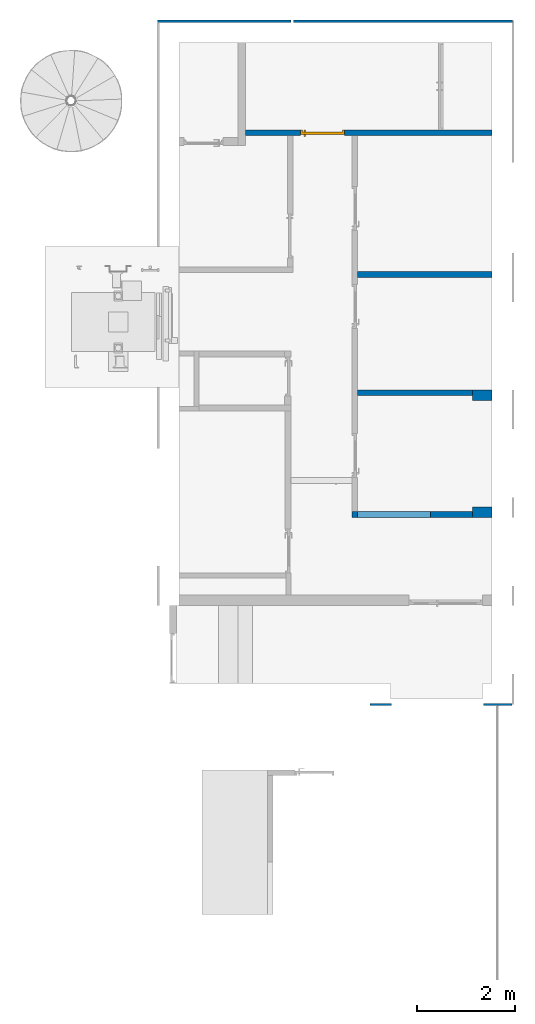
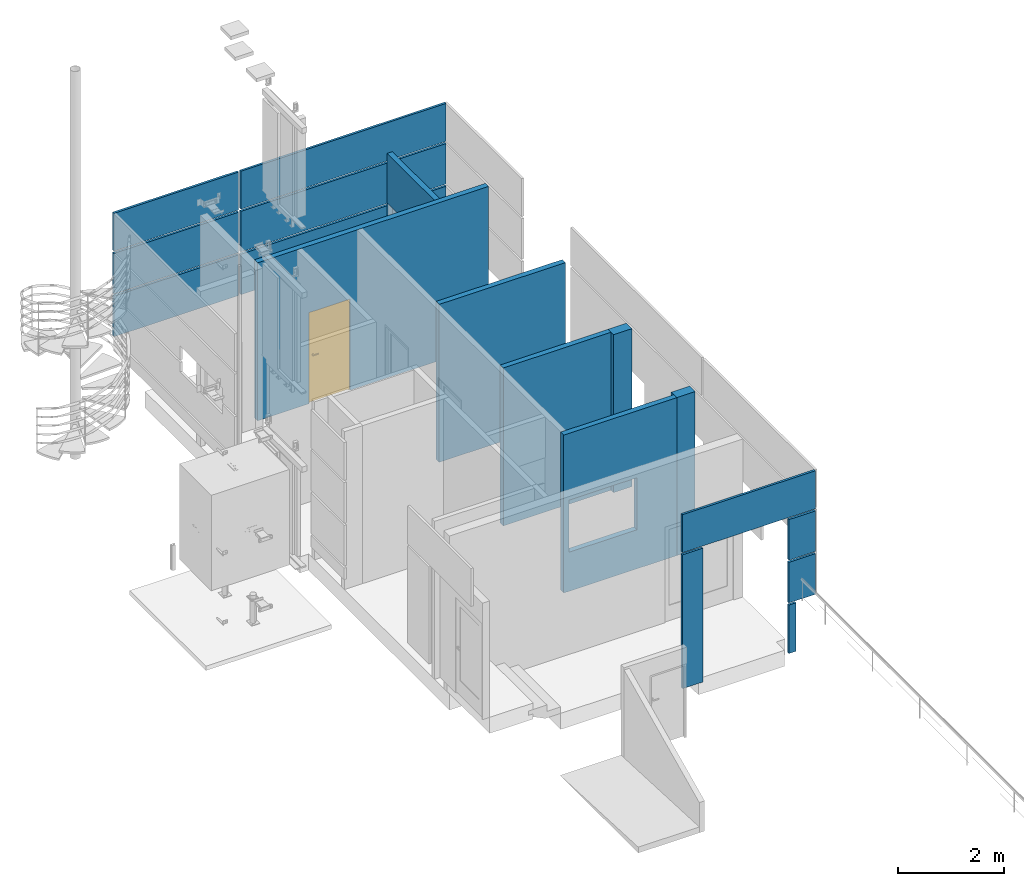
# One storey, part 3 of 15: 9 walls, 1 door, 5 openings.
"""IFC2X3 building model written with IfcOpenShell, lengths in millimetres."""

from ifc_helpers import new_model, entity, si_unit, converted_unit, derived_unit, direction, frame, frame_2d, origin, origin_2d_with_axis, place, context, subcontext, project, spatial, rectangle, extrude, faceted_brep, source, transform, mapped, material, material_list, layer, layer_set, layer_usage, type_object, type_shapes, element, fill, save


model = new_model("IFC2X3")

# Units and contexts
model_context = context("Model", 3, precision=0.01, world=origin(), true_north=direction((6.12303176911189e-17, 1.0)))
body_context = subcontext(model_context, "Body", "Model", "MODEL_VIEW")
ifc_project = project(units=[si_unit("LENGTHUNIT", "METRE", prefix="MILLI"), si_unit("AREAUNIT", "SQUARE_METRE"), si_unit("VOLUMEUNIT", "CUBIC_METRE"), converted_unit("PLANEANGLEUNIT", "DEGREE", entity("IfcRatioMeasure", 0.0174532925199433), si_unit("PLANEANGLEUNIT", "RADIAN"), dimensions=[0, 0, 0, 0, 0, 0, 0]), si_unit("MASSUNIT", "GRAM", prefix="KILO"), derived_unit("MASSDENSITYUNIT", [(si_unit("MASSUNIT", "GRAM", prefix="KILO"), 1), (si_unit("LENGTHUNIT", "METRE"), -3)]), si_unit("TIMEUNIT", "SECOND"), si_unit("FREQUENCYUNIT", "HERTZ"), si_unit("THERMODYNAMICTEMPERATUREUNIT", "DEGREE_CELSIUS"), derived_unit("THERMALTRANSMITTANCEUNIT", [(si_unit("MASSUNIT", "GRAM", prefix="KILO"), 1), (si_unit("THERMODYNAMICTEMPERATUREUNIT", "KELVIN"), -1), (si_unit("TIMEUNIT", "SECOND"), -3)]), derived_unit("VOLUMETRICFLOWRATEUNIT", [(si_unit("LENGTHUNIT", "METRE"), 3), (si_unit("TIMEUNIT", "SECOND"), -1)]), si_unit("ELECTRICCURRENTUNIT", "AMPERE"), si_unit("ELECTRICVOLTAGEUNIT", "VOLT"), si_unit("POWERUNIT", "WATT"), si_unit("FORCEUNIT", "NEWTON", prefix="KILO"), si_unit("ILLUMINANCEUNIT", "LUX"), si_unit("LUMINOUSFLUXUNIT", "LUMEN"), si_unit("LUMINOUSINTENSITYUNIT", "CANDELA"), derived_unit("USERDEFINED", [(si_unit("MASSUNIT", "GRAM", prefix="KILO"), -1), (si_unit("LENGTHUNIT", "METRE"), -2), (si_unit("TIMEUNIT", "SECOND"), 3), (si_unit("LUMINOUSFLUXUNIT", "LUMEN"), 1)]), derived_unit("LINEARVELOCITYUNIT", [(si_unit("LENGTHUNIT", "METRE"), 1), (si_unit("TIMEUNIT", "SECOND"), -1)]), si_unit("PRESSUREUNIT", "PASCAL"), derived_unit("USERDEFINED", [(si_unit("LENGTHUNIT", "METRE"), -2), (si_unit("MASSUNIT", "GRAM", prefix="KILO"), 1), (si_unit("TIMEUNIT", "SECOND"), -2)])], contexts=[model_context])

# Site, building, storey
site_placement = place(None, frame((-151.875543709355, 2715.0, 0.0)))
site = spatial("IfcSite", under=ifc_project, at=site_placement, Name="Surface", CompositionType="ELEMENT")
building_placement = place(site_placement, origin())
building = spatial("IfcBuilding", under=site, at=building_placement, CompositionType="ELEMENT")
storey_placement = place(building_placement, frame((0.0, 0.0, -135.0)))
storey = spatial("IfcBuildingStorey", under=building, at=storey_placement, Name="uus 1 korrus", CompositionType="ELEMENT", Elevation=-134.99999999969)

# Wall, openings
ifc_material_1 = material(Name="__Kips GN13_tava")
ifc_layer_1 = layer(ifc_material_1, 12.5)
ifc_layer_2 = layer(ifc_material_1, 12.5)
ifc_material_2 = material(Name="__Soojustus EPS")
ifc_layer_3 = layer(ifc_material_2, 66.0)
ifc_layer_4 = layer(ifc_material_1, 12.5)
ifc_layer_5 = layer(ifc_material_1, 12.5)
ifc_layer_set_1 = layer_set([ifc_layer_1, ifc_layer_2, ifc_layer_3, ifc_layer_4, ifc_layer_5], Name="Basic Wall:SS-3_Kipssein tava ruumide vahel")
ifc_layer_usage_1 = layer_usage(ifc_layer_set_1, "AXIS2", "NEGATIVE", 58.0)
wall_type_1 = type_object("IfcWallType", Name="Basic Wall:SS-3_Kipssein tava ruumide vahel", PredefinedType="STANDARD", material=ifc_layer_set_1)
wall_1_placement = place(storey_placement, frame((37995.1162681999, 16668.0448732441, 0.0), z_axis=(0.0, 0.0, 1.0), x_axis=(-1.0, 0.0, 0.0)))
wall_1 = element("IfcWallStandardCase", 1, at=wall_1_placement, inside=storey, type_object=wall_type_1, material=ifc_layer_usage_1, Name="Basic Wall:SS-3_Kipssein tava ruumide vahel", ObjectType="Basic Wall:SS-3_Kipssein tava ruumide vahel", context=body_context, shape_type="SweptSolid", body=[
    extrude(rectangle(XDim=2464.28379296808, YDim=116.0, at=frame_2d((1232.14189648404, 4.90274487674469e-13), x_axis=(-1.0, 0.0))), origin(), (0.0, 0.0, 1.0), 3640.0),
])
opening_1_placement = place(wall_1_placement, origin())
element("IfcOpeningElement", 2, at=opening_1_placement, cuts=wall_1, Name="Basic Wall:SS-3_Kipssein tava ruumide vahel", ObjectType="Opening", context=body_context, shape_type="SweptSolid", body=[
    extrude(rectangle(XDim=1200.0, YDim=1481.92309523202, at=frame_2d((-5.6843418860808e-14, 0.0), x_axis=(1.0, 0.0))), frame((1605.32224535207, -58.0, 1500.0), z_axis=(0.0, 1.0, 0.0), x_axis=(0.0, 0.0, -1.0)), (0.0, 0.0, 1.0), 116.0),
])
opening_2_placement = place(wall_1_placement, origin())
element("IfcOpeningElement", 3, at=opening_2_placement, cuts=wall_1, Name="Basic Wall:SS-3_Kipssein tava ruumide vahel", ObjectType="Opening", context=body_context, shape_type="SweptSolid", body=[
    extrude(rectangle(XDim=2099.99999999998, YDim=116.0, at=frame_2d((4.33075797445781e-12, 1.13686837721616e-13), x_axis=(0.0, 1.0))), frame((2406.28379296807, -1655.93478386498, 1050.0), z_axis=(0.0, 1.0, 0.0), x_axis=(1.0, 0.0, 0.0)), (0.0, 0.0, 1.0), 900.000000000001),
])

# Wall, openings, door
ifc_layer_usage_2 = layer_usage(ifc_layer_set_1, "AXIS2", "NEGATIVE", 58.0)
wall_2_placement = place(storey_placement, frame((38396.6162682, 24467.9862342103, 0.0), z_axis=(0.0, 0.0, 1.0), x_axis=(-1.0, 0.0, 0.0)))
wall_2 = element("IfcWallStandardCase", 4, at=wall_2_placement, inside=storey, type_object=wall_type_1, material=ifc_layer_usage_2, Name="Basic Wall:SS-3_Kipssein tava ruumide vahel", ObjectType="Basic Wall:SS-3_Kipssein tava ruumide vahel", context=body_context, shape_type="SweptSolid", body=[
    extrude(rectangle(XDim=5035.00000000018, YDim=116.0, at=frame_2d((2517.50000000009, -1.02673425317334e-12), x_axis=(-1.0, 0.0))), origin(), (0.0, 0.0, 1.0), 3640.0),
])
opening_3_placement = place(wall_2_placement, origin())
element("IfcOpeningElement", 5, at=opening_3_placement, cuts=wall_2, Name="Basic Wall:SS-3_Kipssein tava ruumide vahel", ObjectType="Opening", context=body_context, shape_type="SweptSolid", body=[
    extrude(rectangle(XDim=2499.99999999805, YDim=116.0, at=frame_2d((0.0, 0.0), x_axis=(0.0, 1.0))), frame((1058.0, -1838.0, 1250.0), z_axis=(0.0, 1.0, 0.0), x_axis=(1.0, 0.0, 0.0)), (0.0, 0.0, 1.0), 1780.0),
])
opening_4_placement = place(wall_2_placement, frame((3015.85953779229, -58.0, 0.0)))
opening_4 = element("IfcOpeningElement", 6, at=opening_4_placement, cuts=wall_2, Name="Ühepoolsed:SU-06:1", ObjectType="Opening", context=body_context, shape_type="SweptSolid", body=[
    extrude(rectangle(XDim=2099.99999999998, YDim=900.0, at=frame_2d((1049.99999999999, 450.0), x_axis=(1.0, 0.0))), frame((0.0, 0.0, 0.0), z_axis=(0.0, 1.0, 0.0), x_axis=(0.0, 0.0, 1.0)), (0.0, 0.0, 1.0), 116.0),
])
ifc_material_3 = material(Name="_Alumiiniumprofiil - must")
ifc_material_4 = material(Name="__Uks_hele tamm")
ifc_material_list_1 = material_list([ifc_material_3, ifc_material_4])
ifc_material_list_2 = material_list([ifc_material_3, ifc_material_4])
door_style = type_object("IfcDoorStyle", Name="SU-06", ConstructionType="NOTDEFINED", OperationType="FOLDING_TO_LEFT", ParameterTakesPrecedence=False, Sizeable=False, material=ifc_material_list_2)
shared_shape = source(origin(), body_context, "Body", "Brep", [
    faceted_brep([(800.0, 6.0, 1112.5), (705.0, 6.0, 1112.5), (705.0, 1.0, 1112.5), (825.0, 1.0, 1112.5), (825.0, 44.0, 1112.5), (800.0, 44.0, 1112.5), (800.0, 6.0, 1087.5), (800.0, 44.0, 1087.5), (825.0, 44.0, 1087.5), (825.0, 1.0, 1087.5), (705.0, 1.0, 1087.5), (705.0, 6.0, 1087.5)], [[[0, 1, 2, 3, 4, 5]], [[6, 7, 8, 9, 10, 11]], [[5, 7, 6, 0]], [[4, 8, 7, 5]], [[3, 9, 8, 4]], [[2, 10, 9, 3]], [[1, 11, 10, 2]], [[0, 6, 11, 1]]]),
    faceted_brep([(787.500000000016, 44.0, 1137.5), (837.500000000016, 44.0, 1137.5), (837.500000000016, 46.0, 1137.5), (787.500000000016, 46.0, 1137.5), (787.500000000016, 44.0, 1017.5), (787.500000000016, 46.0, 1017.5), (837.500000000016, 46.0, 1017.5), (837.500000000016, 44.0, 1017.5)], [[[0, 1, 2, 3]], [[4, 5, 6, 7]], [[3, 5, 4, 0]], [[2, 6, 5, 3]], [[1, 7, 6, 2]], [[0, 4, 7, 1]]]),
    faceted_brep([(800.0, 136.0, 1112.5), (800.0, 98.0, 1112.5), (825.0, 98.0, 1112.5), (825.0, 141.0, 1112.5), (705.0, 141.0, 1112.5), (705.0, 136.0, 1112.5), (800.0, 136.0, 1087.5), (705.0, 136.0, 1087.5), (705.0, 141.0, 1087.5), (825.0, 141.0, 1087.5), (825.0, 98.0, 1087.5), (800.0, 98.0, 1087.5)], [[[0, 1, 2, 3, 4, 5]], [[6, 7, 8, 9, 10, 11]], [[1, 0, 6, 11]], [[2, 1, 11, 10]], [[3, 2, 10, 9]], [[4, 3, 9, 8]], [[5, 4, 8, 7]], [[0, 5, 7, 6]]]),
    faceted_brep([(787.500000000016, 98.0, 1137.5), (787.500000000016, 96.0, 1137.5), (837.500000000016, 96.0, 1137.5), (837.500000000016, 98.0, 1137.5), (787.500000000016, 98.0, 1017.5), (837.500000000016, 98.0, 1017.5), (837.500000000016, 96.0, 1017.5), (787.500000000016, 96.0, 1017.5)], [[[0, 1, 2, 3]], [[4, 5, 6, 7]], [[1, 0, 4, 7]], [[2, 1, 7, 6]], [[3, 2, 6, 5]], [[0, 3, 5, 4]]]),
    faceted_brep([(0.0, 6.0, 0.0), (0.0, 96.0, 0.0), (25.0, 96.0, 0.0), (25.0, 46.0, 0.0), (40.0, 46.0, 0.0), (40.0, 6.0, 0.0), (40.0, 6.0, 2060.0), (860.0, 6.0, 2060.0), (860.0, 6.0, 0.0), (900.0, 6.0, 0.0), (900.0, 6.0, 2100.0), (0.0, 6.0, 2100.0), (40.0, 46.0, 2060.0), (25.0, 46.0, 2075.0), (875.0, 46.0, 2075.0), (875.0, 46.0, 0.0), (860.0, 46.0, 0.0), (860.0, 46.0, 2060.0), (25.0, 96.0, 2075.0), (0.0, 96.0, 2100.0), (900.0, 96.0, 2100.0), (900.0, 96.0, 0.0), (875.0, 96.0, 0.0), (875.0, 96.0, 2075.0)], [[[0, 1, 2, 3, 4, 5]], [[5, 6, 7, 8, 9, 10, 11, 0]], [[4, 12, 6, 5]], [[3, 13, 14, 15, 16, 17, 12, 4]], [[2, 18, 13, 3]], [[1, 19, 20, 21, 22, 23, 18, 2]], [[0, 11, 19, 1]], [[9, 21, 20, 10]], [[8, 16, 15, 22, 21, 9]], [[7, 17, 16, 8]], [[14, 23, 22, 15]], [[6, 12, 17, 7]], [[13, 18, 23, 14]], [[10, 20, 19, 11]]]),
    faceted_brep([(875.0, 46.0, 2075.0), (25.0, 46.0, 2075.0), (25.0, 46.0, 20.0), (875.0, 46.0, 20.0), (875.0, 96.0, 2075.0), (875.0, 96.0, 20.0), (25.0, 96.0, 20.0), (25.0, 96.0, 2075.0)], [[[0, 1, 2, 3]], [[4, 5, 6, 7]], [[3, 5, 4, 0]], [[2, 6, 5, 3]], [[1, 7, 6, 2]], [[0, 4, 7, 1]]]),
])
type_shapes(door_style, [shared_shape])
door_placement = place(opening_4_placement, origin())
door = element("IfcDoor", 7, at=door_placement, inside=storey, type_object=door_style, material=ifc_material_list_1, Name="Ühepoolsed:SU-06", ObjectType="SU-06", OverallHeight=2099.99999999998, OverallWidth=899.999999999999, context=body_context, shape_type="MappedRepresentation", body=[
    mapped(shared_shape, transform((0.0, 0.0, 0.0), scale=1.0)),
])
fill(opening_4, door)

# Walls
ifc_layer_usage_3 = layer_usage(ifc_layer_set_1, "AXIS2", "NEGATIVE", 58.0)
wall_3_placement = place(storey_placement, frame((38396.6162682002, 21569.1891125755, 0.0), z_axis=(0.0, 0.0, 1.0), x_axis=(-1.0, 0.0, 0.0)))
element("IfcWallStandardCase", 8, at=wall_3_placement, inside=storey, type_object=wall_type_1, material=ifc_layer_usage_3, Name="Basic Wall:SS-3_Kipssein tava ruumide vahel", ObjectType="Basic Wall:SS-3_Kipssein tava ruumide vahel", context=body_context, shape_type="SweptSolid", body=[
    extrude(rectangle(XDim=2749.78379296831, YDim=116.0, at=frame_2d((1374.89189648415, -1.59872115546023e-13), x_axis=(-1.0, 0.0))), origin(), (0.0, 0.0, 1.0), 3640.0),
])
ifc_layer_usage_4 = layer_usage(ifc_layer_set_1, "AXIS2", "NEGATIVE", 58.0)
wall_4_placement = place(storey_placement, frame((37995.1162681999, 19151.9796571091, 0.0), z_axis=(0.0, 0.0, 1.0), x_axis=(-1.0, 0.0, 0.0)))
element("IfcWallStandardCase", 9, at=wall_4_placement, inside=storey, type_object=wall_type_1, material=ifc_layer_usage_4, Name="Basic Wall:SS-3_Kipssein tava ruumide vahel", ObjectType="Basic Wall:SS-3_Kipssein tava ruumide vahel", context=body_context, shape_type="SweptSolid", body=[
    extrude(rectangle(XDim=2348.28379296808, YDim=116.0, at=frame_2d((1174.14189648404, 3.12638803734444e-13), x_axis=(-1.0, 0.0))), origin(), (0.0, 0.0, 1.0), 3640.0),
])

# Wall, opening
ifc_layer_usage_5 = layer_usage(ifc_layer_set_1, "AXIS2", "NEGATIVE", 58.0)
wall_5_placement = place(storey_placement, frame((37338.6162681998, 24525.9862342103, 0.0), z_axis=(0.0, 0.0, 1.0), x_axis=(0.0, 1.0, 0.0)))
wall_5 = element("IfcWallStandardCase", 10, at=wall_5_placement, inside=storey, type_object=wall_type_1, material=ifc_layer_usage_5, Name="Basic Wall:SS-3_Kipssein tava ruumide vahel", ObjectType="Basic Wall:SS-3_Kipssein tava ruumide vahel", context=body_context, shape_type="SweptSolid", body=[
    extrude(rectangle(XDim=1784.01379234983, YDim=116.0, at=frame_2d((892.006896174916, -7.85149723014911e-13), x_axis=(-1.0, 0.0))), origin(), (0.0, 0.0, 1.0), 3640.0),
])
opening_5_placement = place(wall_5_placement, frame((0.0, -58.0, 0.0)))
element("IfcOpeningElement", 11, at=opening_5_placement, cuts=wall_5, Name="Kahepoolsed:SU-25:1", ObjectType="Opening", context=body_context, shape_type="SweptSolid", body=[
    extrude(rectangle(XDim=2499.99999999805, YDim=1780.0, at=frame_2d((1249.99999999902, 890.0), x_axis=(1.0, 0.0))), frame((0.0, 0.0, 0.0), z_axis=(0.0, 1.0, 0.0), x_axis=(0.0, 0.0, 1.0)), (0.0, 0.0, 1.0), 116.0),
])

# Walls
ifc_material_5 = material(Name="Steel/Aluminium")
wall_type_2 = type_object("IfcWallType", Name="fassaad4:fassaad4", PredefinedType="NOTDEFINED", material=ifc_material_5)
wall_6_placement = place(storey_placement, frame((35895.6162682, 12761.0, 1.02043307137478e-09)))
element("IfcWall", 12, at=wall_6_placement, inside=storey, type_object=wall_type_2, material=ifc_material_5, Name="fassaad4:fassaad4", ObjectType="fassaad4:fassaad4", context=body_context, shape_type="SweptSolid", body=[
    extrude(rectangle(XDim=49.9999999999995, YDim=446.00000004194, at=frame_2d((1.08357767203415e-12, 0.0), x_axis=(1.0, 0.0))), frame((223.0, 25.0, 0.0), z_axis=(0.0, 0.0, 1.0), x_axis=(0.0, 1.0, 0.0)), (0.0, 0.0, 1.0), 3084.99999999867),
    extrude(rectangle(XDim=49.9999999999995, YDim=2899.99999999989, at=frame_2d((1.08357767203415e-12, 2.1600499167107e-12), x_axis=(1.0, 0.0))), frame((1450.0, 25.0, 3135.0), z_axis=(0.0, 0.0, 1.0), x_axis=(0.0, 1.0, 0.0)), (0.0, 0.0, 1.0), 875.0),
    extrude(rectangle(XDim=49.9999999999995, YDim=578.979657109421, at=frame_2d((1.08357767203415e-12, 0.0), x_axis=(1.0, 0.0))), frame((2610.51017144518, 25.0, 2150.0), z_axis=(0.0, 0.0, 1.0), x_axis=(0.0, 1.0, 0.0)), (0.0, 0.0, 1.0), 934.999999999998),
    extrude(rectangle(XDim=49.9999999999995, YDim=578.979657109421, at=origin_2d_with_axis()), frame((2610.51017144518, 25.0, 1165.0), z_axis=(0.0, 0.0, 1.0), x_axis=(0.0, 1.0, 0.0)), (0.0, 0.0, 1.0), 934.999999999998),
    extrude(rectangle(XDim=49.9999999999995, YDim=154.979657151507, at=frame_2d((1.08357767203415e-12, 2.1600499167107e-12), x_axis=(1.0, 0.0))), frame((2398.51017146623, 25.0, 0.0), z_axis=(0.0, 0.0, 1.0), x_axis=(0.0, 1.0, 0.0)), (0.0, 0.0, 1.0), 1114.99999999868),
])
ifc_material_6 = material(Name="__Hall krohv")
ifc_layer_6 = layer(ifc_material_6, 10.0)
ifc_material_7 = material(Name="__Kergblokk")
ifc_layer_7 = layer(ifc_material_7, 190.0)
ifc_layer_8 = layer(ifc_material_6, 10.0)
ifc_layer_set_2 = layer_set([ifc_layer_6, ifc_layer_7, ifc_layer_8], Name="Basic Wall:SS-2.1_Columbia kivi EI-60 sein")
ifc_layer_usage_6 = layer_usage(ifc_layer_set_2, "AXIS2", "NEGATIVE", 105.0)
wall_type_3 = type_object("IfcWallType", Name="Basic Wall:SS-2.1_Columbia kivi EI-60 sein", PredefinedType="STANDARD", material=ifc_layer_set_2)
wall_7_placement = place(storey_placement, frame((37995.1162681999, 16715.0448732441, 0.0)))
element("IfcWallStandardCase", 13, at=wall_7_placement, inside=storey, type_object=wall_type_3, material=ifc_layer_usage_6, Name="Basic Wall:SS-2.1_Columbia kivi EI-60 sein", ObjectType="Basic Wall:SS-2.1_Columbia kivi EI-60 sein", context=body_context, shape_type="SweptSolid", body=[
    extrude(rectangle(XDim=401.500000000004, YDim=210.0, at=frame_2d((200.750000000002, -4.19220214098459e-13), x_axis=(-1.0, 0.0))), origin(), (0.0, 0.0, 1.0), 3640.0),
])
ifc_layer_usage_7 = layer_usage(ifc_layer_set_2, "AXIS2", "NEGATIVE", 105.0)
wall_8_placement = place(storey_placement, frame((37995.1162681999, 19105.0897464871, 0.0)))
element("IfcWallStandardCase", 14, at=wall_8_placement, inside=storey, type_object=wall_type_3, material=ifc_layer_usage_7, Name="Basic Wall:SS-2.1_Columbia kivi EI-60 sein", ObjectType="Basic Wall:SS-2.1_Columbia kivi EI-60 sein", context=body_context, shape_type="SweptSolid", body=[
    extrude(rectangle(XDim=401.500000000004, YDim=210.0, at=frame_2d((200.750000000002, -4.19220214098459e-13), x_axis=(-1.0, 0.0))), origin(), (0.0, 0.0, 1.0), 3640.0),
])
wall_type_4 = type_object("IfcWallType", Name="fassaad2.1:fassaad2.1", PredefinedType="NOTDEFINED", material=ifc_material_5)
wall_9_placement = place(storey_placement, frame((31562.3141625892, 26719.0, 1165.0)))
element("IfcWall", 15, at=wall_9_placement, inside=storey, type_object=wall_type_4, material=ifc_material_5, Name="fassaad2.1:fassaad2.1", ObjectType="fassaad2.1:fassaad2.1", context=body_context, shape_type="SweptSolid", body=[
    extrude(rectangle(XDim=2720.0, YDim=50.0000000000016, at=frame_2d((-2.1600499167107e-12, 2.16715534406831e-12), x_axis=(1.0, 0.0))), frame((1360.0, 25.0, 1970.0)), (0.0, 0.0, 1.0), 875.0),
    extrude(rectangle(XDim=2720.0, YDim=50.0000000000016, at=frame_2d((-2.1600499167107e-12, -2.16715534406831e-12), x_axis=(1.0, 0.0))), frame((1360.0, 25.0, 985.0)), (0.0, 0.0, 1.0), 934.999999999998),
    extrude(rectangle(XDim=4473.99999995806, YDim=50.0000000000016, at=frame_2d((-2.27373675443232e-12, -2.16715534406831e-12), x_axis=(1.0, 0.0))), frame((5007.0, 25.0, 985.0)), (0.0, 0.0, 1.0), 934.999999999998),
    extrude(rectangle(XDim=4473.99999995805, YDim=50.0000000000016, at=frame_2d((2.27373675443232e-12, -2.16715534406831e-12), x_axis=(1.0, 0.0))), frame((5007.0, 25.0, 0.0)), (0.0, 0.0, 1.0), 934.999999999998),
    extrude(rectangle(XDim=2720.0, YDim=50.0000000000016, at=frame_2d((-2.1600499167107e-12, -2.16715534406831e-12), x_axis=(1.0, 0.0))), frame((1360.0, 25.0, 0.0)), (0.0, 0.0, 1.0), 934.999999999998),
    extrude(rectangle(XDim=4473.99999995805, YDim=50.0000000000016, at=frame_2d((2.27373675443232e-12, 2.16715534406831e-12), x_axis=(1.0, 0.0))), frame((5007.0, 25.0, 1970.0)), (0.0, 0.0, 1.0), 875.0),
])

save(model, "model.ifc")
